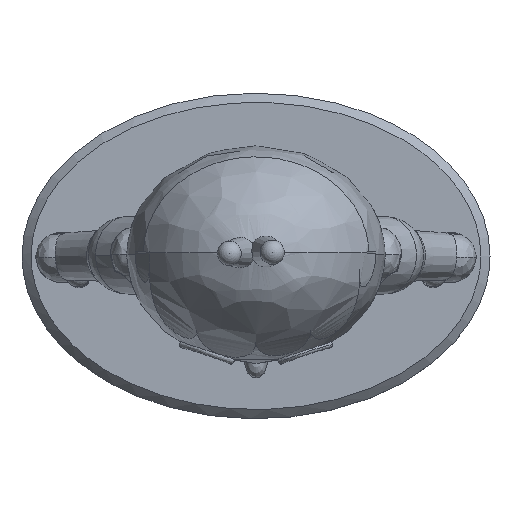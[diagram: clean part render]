
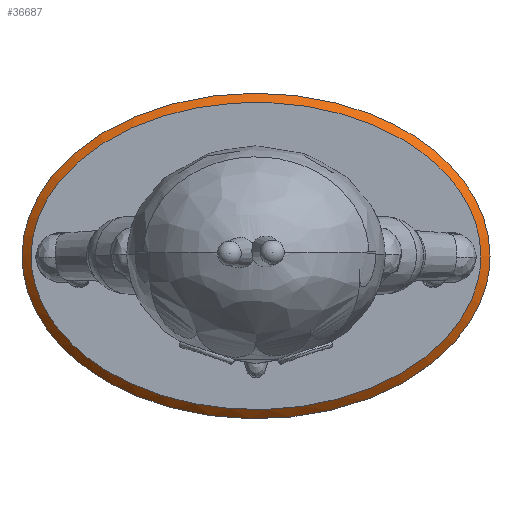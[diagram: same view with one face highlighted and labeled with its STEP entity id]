
A CAD part, top view. The second image highlights one B-rep face of the part: STEP entity #36687.
In plain terms, the highlighted free-form (B-spline) face has degree [14, 1] with [15, 2] control points.
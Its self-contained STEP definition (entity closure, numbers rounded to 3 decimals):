
#36031 = PLANE('',#36032);
#36032 = AXIS2_PLACEMENT_3D('',#36033,#36034,#36035);
#36033 = CARTESIAN_POINT('',(0.,0.,4.));
#36034 = DIRECTION('',(0.,0.,1.));
#36035 = DIRECTION('',(1.,0.,-0.));
#36628 = EDGE_CURVE('',#36629,#36629,#36631,.T.);
#36629 = VERTEX_POINT('',#36630);
#36630 = CARTESIAN_POINT('',(22.1,0.,4.));
#36631 = SURFACE_CURVE('',#36632,(#36637,#36644),.PCURVE_S1.);
#36632 = ELLIPSE('',#36633,22.1,15.1);
#36633 = AXIS2_PLACEMENT_3D('',#36634,#36635,#36636);
#36634 = CARTESIAN_POINT('',(0.,0.,4.));
#36635 = DIRECTION('',(0.,0.,1.));
#36636 = DIRECTION('',(1.,0.,-0.));
#36637 = PCURVE('',#36031,#36638);
#36638 = DEFINITIONAL_REPRESENTATION('',(#36639),#36643);
#36639 = ELLIPSE('',#36640,22.1,15.1);
#36640 = AXIS2_PLACEMENT_2D('',#36641,#36642);
#36641 = CARTESIAN_POINT('',(0.,0.));
#36642 = DIRECTION('',(1.,0.));
#36643 = ( GEOMETRIC_REPRESENTATION_CONTEXT(2) 
PARAMETRIC_REPRESENTATION_CONTEXT() REPRESENTATION_CONTEXT('2D SPACE',''
  ) );
#36644 = PCURVE('',#36645,#36676);
#36645 = B_SPLINE_SURFACE_WITH_KNOTS('',14,1,(
    (#36646,#36647)
    ,(#36648,#36649)
    ,(#36650,#36651)
    ,(#36652,#36653)
    ,(#36654,#36655)
    ,(#36656,#36657)
    ,(#36658,#36659)
    ,(#36660,#36661)
    ,(#36662,#36663)
    ,(#36664,#36665)
    ,(#36666,#36667)
    ,(#36668,#36669)
    ,(#36670,#36671)
    ,(#36672,#36673)
    ,(#36674,#36675
    )),.UNSPECIFIED.,.T.,.F.,.F.,(15,15),(2,2),(0.,6.283),(0.,1.
    ),.PIECEWISE_BEZIER_KNOTS.);
#36646 = CARTESIAN_POINT('',(23.,0.,3.1));
#36647 = CARTESIAN_POINT('',(22.1,0.,4.));
#36648 = CARTESIAN_POINT('',(23.,7.181,3.1));
#36649 = CARTESIAN_POINT('',(22.1,6.777,4.));
#36650 = CARTESIAN_POINT('',(18.011,14.362,
    3.1));
#36651 = CARTESIAN_POINT('',(17.306,13.554,
    4.));
#36652 = CARTESIAN_POINT('',(8.033,19.725,
    3.1));
#36653 = CARTESIAN_POINT('',(7.719,18.616,
    4.));
#36654 = CARTESIAN_POINT('',(-5.442,21.454,
    3.1));
#36655 = CARTESIAN_POINT('',(-5.229,20.248,
    4.));
#36656 = CARTESIAN_POINT('',(-19.43,18.384,
    3.1));
#36657 = CARTESIAN_POINT('',(-18.67,17.35,4.));
#36658 = CARTESIAN_POINT('',(-30.108,10.654,
    3.1));
#36659 = CARTESIAN_POINT('',(-28.93,10.055,
    4.));
#36660 = CARTESIAN_POINT('',(-34.128,0.,
    3.1));
#36661 = CARTESIAN_POINT('',(-32.793,0.,
    4.));
#36662 = CARTESIAN_POINT('',(-30.108,-10.654,
    3.1));
#36663 = CARTESIAN_POINT('',(-28.93,-10.055,
    4.));
#36664 = CARTESIAN_POINT('',(-19.43,-18.384,
    3.1));
#36665 = CARTESIAN_POINT('',(-18.67,-17.35,
    4.));
#36666 = CARTESIAN_POINT('',(-5.442,-21.454,
    3.1));
#36667 = CARTESIAN_POINT('',(-5.229,-20.248,
    4.));
#36668 = CARTESIAN_POINT('',(8.033,-19.725,
    3.1));
#36669 = CARTESIAN_POINT('',(7.719,-18.616,
    4.));
#36670 = CARTESIAN_POINT('',(18.011,-14.362,
    3.1));
#36671 = CARTESIAN_POINT('',(17.306,-13.554,
    4.));
#36672 = CARTESIAN_POINT('',(23.,-7.181,
    3.1));
#36673 = CARTESIAN_POINT('',(22.1,-6.777,4.));
#36674 = CARTESIAN_POINT('',(23.,0.,3.1));
#36675 = CARTESIAN_POINT('',(22.1,0.,4.));
#36676 = DEFINITIONAL_REPRESENTATION('',(#36677),#36680);
#36677 = B_SPLINE_CURVE_WITH_KNOTS('',1,(#36678,#36679),.UNSPECIFIED.,
  .F.,.F.,(2,2),(0.,6.283),.PIECEWISE_BEZIER_KNOTS.);
#36678 = CARTESIAN_POINT('',(0.,1.));
#36679 = CARTESIAN_POINT('',(6.283,1.));
#36680 = ( GEOMETRIC_REPRESENTATION_CONTEXT(2) 
PARAMETRIC_REPRESENTATION_CONTEXT() REPRESENTATION_CONTEXT('2D SPACE',''
  ) );
#36687 = ADVANCED_FACE('',(#36688),#36645,.T.);
#36688 = FACE_BOUND('',#36689,.T.);
#36689 = EDGE_LOOP('',(#36690,#36743,#36761,#36762));
#36690 = ORIENTED_EDGE('',*,*,#36691,.T.);
#36691 = EDGE_CURVE('',#36692,#36692,#36694,.T.);
#36692 = VERTEX_POINT('',#36693);
#36693 = CARTESIAN_POINT('',(23.,0.,3.1));
#36694 = SURFACE_CURVE('',#36695,(#36700,#36706),.PCURVE_S1.);
#36695 = ELLIPSE('',#36696,23.,16.);
#36696 = AXIS2_PLACEMENT_3D('',#36697,#36698,#36699);
#36697 = CARTESIAN_POINT('',(0.,0.,3.1));
#36698 = DIRECTION('',(0.,0.,1.));
#36699 = DIRECTION('',(1.,0.,-0.));
#36700 = PCURVE('',#36645,#36701);
#36701 = DEFINITIONAL_REPRESENTATION('',(#36702),#36705);
#36702 = B_SPLINE_CURVE_WITH_KNOTS('',1,(#36703,#36704),.UNSPECIFIED.,
  .F.,.F.,(2,2),(0.,6.283),.PIECEWISE_BEZIER_KNOTS.);
#36703 = CARTESIAN_POINT('',(0.,0.));
#36704 = CARTESIAN_POINT('',(6.283,0.));
#36705 = ( GEOMETRIC_REPRESENTATION_CONTEXT(2) 
PARAMETRIC_REPRESENTATION_CONTEXT() REPRESENTATION_CONTEXT('2D SPACE',''
  ) );
#36706 = PCURVE('',#36707,#36738);
#36707 = B_SPLINE_SURFACE_WITH_KNOTS('',14,1,(
    (#36708,#36709)
    ,(#36710,#36711)
    ,(#36712,#36713)
    ,(#36714,#36715)
    ,(#36716,#36717)
    ,(#36718,#36719)
    ,(#36720,#36721)
    ,(#36722,#36723)
    ,(#36724,#36725)
    ,(#36726,#36727)
    ,(#36728,#36729)
    ,(#36730,#36731)
    ,(#36732,#36733)
    ,(#36734,#36735)
    ,(#36736,#36737
    )),.UNSPECIFIED.,.T.,.F.,.F.,(15,15),(2,2),(0.,6.283),(0.,1.
    ),.PIECEWISE_BEZIER_KNOTS.);
#36708 = CARTESIAN_POINT('',(23.,0.,0.7));
#36709 = CARTESIAN_POINT('',(23.,0.,3.1));
#36710 = CARTESIAN_POINT('',(23.,7.181,0.7));
#36711 = CARTESIAN_POINT('',(23.,7.181,3.1));
#36712 = CARTESIAN_POINT('',(18.011,14.362,0.7));
#36713 = CARTESIAN_POINT('',(18.011,14.362,
    3.1));
#36714 = CARTESIAN_POINT('',(8.033,19.725,
    0.7));
#36715 = CARTESIAN_POINT('',(8.033,19.725,
    3.1));
#36716 = CARTESIAN_POINT('',(-5.442,21.454,
    0.7));
#36717 = CARTESIAN_POINT('',(-5.442,21.454,
    3.1));
#36718 = CARTESIAN_POINT('',(-19.43,18.384,
    0.7));
#36719 = CARTESIAN_POINT('',(-19.43,18.384,
    3.1));
#36720 = CARTESIAN_POINT('',(-30.108,10.654,
    0.7));
#36721 = CARTESIAN_POINT('',(-30.108,10.654,
    3.1));
#36722 = CARTESIAN_POINT('',(-34.128,0.,
    0.7));
#36723 = CARTESIAN_POINT('',(-34.128,0.,
    3.1));
#36724 = CARTESIAN_POINT('',(-30.108,-10.654,
    0.7));
#36725 = CARTESIAN_POINT('',(-30.108,-10.654,
    3.1));
#36726 = CARTESIAN_POINT('',(-19.43,-18.384,
    0.7));
#36727 = CARTESIAN_POINT('',(-19.43,-18.384,
    3.1));
#36728 = CARTESIAN_POINT('',(-5.442,-21.454,
    0.7));
#36729 = CARTESIAN_POINT('',(-5.442,-21.454,
    3.1));
#36730 = CARTESIAN_POINT('',(8.033,-19.725,
    0.7));
#36731 = CARTESIAN_POINT('',(8.033,-19.725,
    3.1));
#36732 = CARTESIAN_POINT('',(18.011,-14.362,
    0.7));
#36733 = CARTESIAN_POINT('',(18.011,-14.362,
    3.1));
#36734 = CARTESIAN_POINT('',(23.,-7.181,0.7));
#36735 = CARTESIAN_POINT('',(23.,-7.181,
    3.1));
#36736 = CARTESIAN_POINT('',(23.,0.,0.7));
#36737 = CARTESIAN_POINT('',(23.,0.,3.1));
#36738 = DEFINITIONAL_REPRESENTATION('',(#36739),#36742);
#36739 = B_SPLINE_CURVE_WITH_KNOTS('',1,(#36740,#36741),.UNSPECIFIED.,
  .F.,.F.,(2,2),(0.,6.283),.PIECEWISE_BEZIER_KNOTS.);
#36740 = CARTESIAN_POINT('',(0.,1.));
#36741 = CARTESIAN_POINT('',(6.283,1.));
#36742 = ( GEOMETRIC_REPRESENTATION_CONTEXT(2) 
PARAMETRIC_REPRESENTATION_CONTEXT() REPRESENTATION_CONTEXT('2D SPACE',''
  ) );
#36743 = ORIENTED_EDGE('',*,*,#36744,.T.);
#36744 = EDGE_CURVE('',#36692,#36629,#36745,.T.);
#36745 = SEAM_CURVE('',#36746,(#36749,#36755),.PCURVE_S1.);
#36746 = B_SPLINE_CURVE_WITH_KNOTS('',1,(#36747,#36748),.UNSPECIFIED.,
  .F.,.F.,(2,2),(0.,1.),.PIECEWISE_BEZIER_KNOTS.);
#36747 = CARTESIAN_POINT('',(23.,0.,3.1));
#36748 = CARTESIAN_POINT('',(22.1,0.,4.));
#36749 = PCURVE('',#36645,#36750);
#36750 = DEFINITIONAL_REPRESENTATION('',(#36751),#36754);
#36751 = B_SPLINE_CURVE_WITH_KNOTS('',1,(#36752,#36753),.UNSPECIFIED.,
  .F.,.F.,(2,2),(0.,1.),.PIECEWISE_BEZIER_KNOTS.);
#36752 = CARTESIAN_POINT('',(6.283,0.));
#36753 = CARTESIAN_POINT('',(6.283,1.));
#36754 = ( GEOMETRIC_REPRESENTATION_CONTEXT(2) 
PARAMETRIC_REPRESENTATION_CONTEXT() REPRESENTATION_CONTEXT('2D SPACE',''
  ) );
#36755 = PCURVE('',#36645,#36756);
#36756 = DEFINITIONAL_REPRESENTATION('',(#36757),#36760);
#36757 = B_SPLINE_CURVE_WITH_KNOTS('',1,(#36758,#36759),.UNSPECIFIED.,
  .F.,.F.,(2,2),(0.,1.),.PIECEWISE_BEZIER_KNOTS.);
#36758 = CARTESIAN_POINT('',(0.,0.));
#36759 = CARTESIAN_POINT('',(0.,1.));
#36760 = ( GEOMETRIC_REPRESENTATION_CONTEXT(2) 
PARAMETRIC_REPRESENTATION_CONTEXT() REPRESENTATION_CONTEXT('2D SPACE',''
  ) );
#36761 = ORIENTED_EDGE('',*,*,#36628,.F.);
#36762 = ORIENTED_EDGE('',*,*,#36744,.F.);
